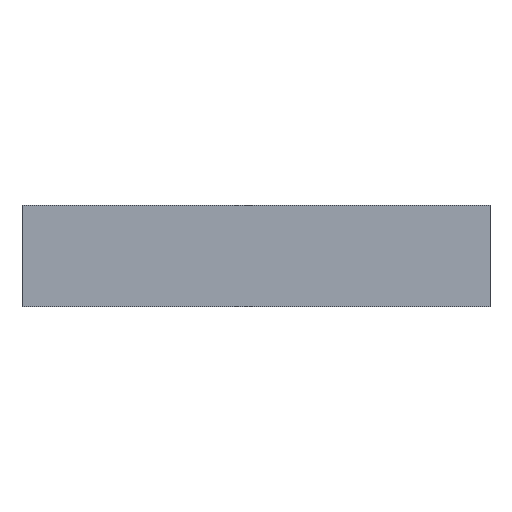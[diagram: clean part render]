
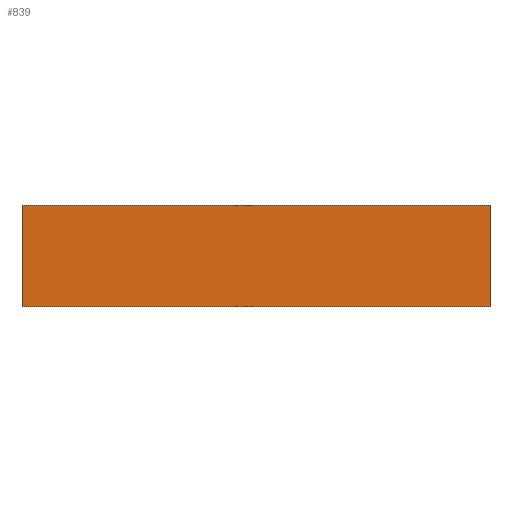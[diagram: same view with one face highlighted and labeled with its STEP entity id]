
A CAD part, front view. The second image highlights one B-rep face of the part: STEP entity #839.
In plain terms, the highlighted planar face has unit normal (0, -1, 0).
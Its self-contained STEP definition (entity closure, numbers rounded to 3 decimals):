
#98 = ORIENTED_EDGE ( 'NONE', *, *, #641, .T. ) ;
#99 = ORIENTED_EDGE ( 'NONE', *, *, #623, .F. ) ;
#100 = ORIENTED_EDGE ( 'NONE', *, *, #648, .F. ) ;
#101 = ORIENTED_EDGE ( 'NONE', *, *, #642, .T. ) ;
#249 = DIRECTION ( 'NONE',  ( -1., 0., 0. ) ) ;
#250 = DIRECTION ( 'NONE',  ( 0., 1., 0. ) ) ;
#257 = CARTESIAN_POINT ( 'NONE',  ( -150., 0., 65. ) ) ;
#262 = PLANE ( 'NONE',  #1001 ) ;
#358 = CARTESIAN_POINT ( 'NONE',  ( 150., 0., 65. ) ) ;
#374 = DIRECTION ( 'NONE',  ( 0., 0., -1. ) ) ;
#382 = CARTESIAN_POINT ( 'NONE',  ( 150., 0., 65. ) ) ;
#393 = CARTESIAN_POINT ( 'NONE',  ( 150., 0., 0. ) ) ;
#394 = DIRECTION ( 'NONE',  ( 1., 0., 0. ) ) ;
#396 = DIRECTION ( 'NONE',  ( 0., 0., -1. ) ) ;
#398 = CARTESIAN_POINT ( 'NONE',  ( -150., 0., 0. ) ) ;
#401 = CARTESIAN_POINT ( 'NONE',  ( -150., 0., 65. ) ) ;
#424 = VERTEX_POINT ( 'NONE', #393 ) ;
#455 = DIRECTION ( 'NONE',  ( 1., 0., 0. ) ) ;
#456 = VERTEX_POINT ( 'NONE', #358 ) ;
#462 = CARTESIAN_POINT ( 'NONE',  ( -150., 0., 65. ) ) ;
#480 = CARTESIAN_POINT ( 'NONE',  ( -150., 0., 0. ) ) ;
#482 = CARTESIAN_POINT ( 'NONE',  ( -150., 0., 65. ) ) ;
#534 = VERTEX_POINT ( 'NONE', #482 ) ;
#539 = VERTEX_POINT ( 'NONE', #480 ) ;
#623 = EDGE_CURVE ( 'NONE', #534, #456, #772, .T. ) ;
#641 = EDGE_CURVE ( 'NONE', #534, #539, #736, .T. ) ;
#642 = EDGE_CURVE ( 'NONE', #539, #424, #734, .T. ) ;
#648 = EDGE_CURVE ( 'NONE', #456, #424, #718, .T. ) ;
#718 = LINE ( 'NONE', #382, #731 ) ;
#730 = VECTOR ( 'NONE', #394, 1000. ) ;
#731 = VECTOR ( 'NONE', #374, 1000. ) ;
#732 = VECTOR ( 'NONE', #396, 1000. ) ;
#734 = LINE ( 'NONE', #398, #730 ) ;
#736 = LINE ( 'NONE', #401, #732 ) ;
#767 = VECTOR ( 'NONE', #455, 1000. ) ;
#772 = LINE ( 'NONE', #462, #767 ) ;
#828 = EDGE_LOOP ( 'NONE', ( #101, #100, #99, #98 ) ) ;
#839 = ADVANCED_FACE ( 'NONE', ( #938 ), #262, .F. ) ;
#938 = FACE_OUTER_BOUND ( 'NONE', #828, .T. ) ;
#1001 = AXIS2_PLACEMENT_3D ( 'NONE', #257, #250, #249 ) ;
